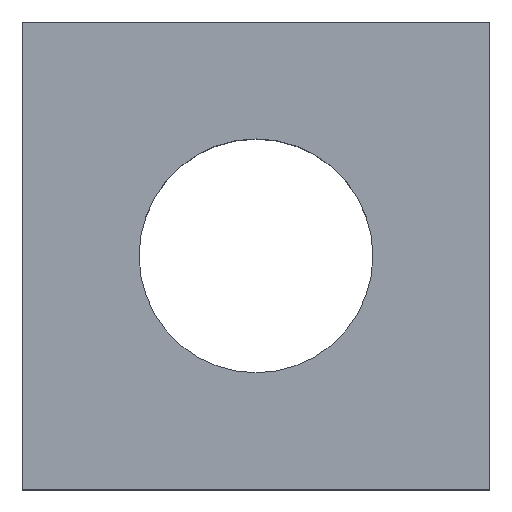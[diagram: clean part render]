
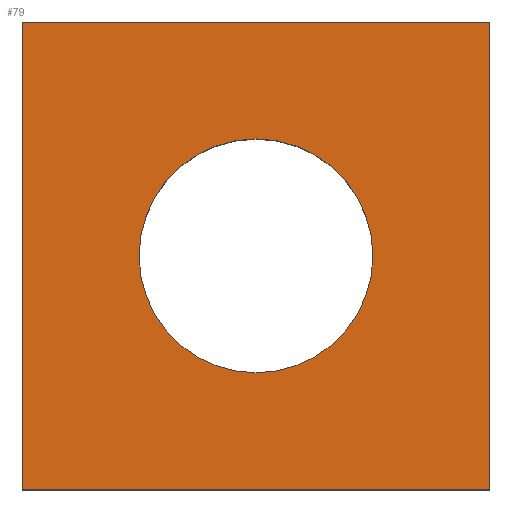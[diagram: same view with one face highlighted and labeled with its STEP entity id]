
A CAD part, top view. The second image highlights one B-rep face of the part: STEP entity #79.
In plain terms, the highlighted free-form (B-spline) face has degree [1, 1] with [2, 2] control points.
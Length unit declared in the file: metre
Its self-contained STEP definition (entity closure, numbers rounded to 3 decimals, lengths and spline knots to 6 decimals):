
#79 = ADVANCED_FACE( '', ( #93, #94 ), #95, .T. );
#93 = FACE_BOUND( '', #139, .T. );
#94 = FACE_OUTER_BOUND( '', #140, .T. );
#95 = B_SPLINE_SURFACE_WITH_KNOTS( '', 1, 1, ( ( #141, #142 ), ( #143, #144 ) ), .UNSPECIFIED., .F., .F., .F., ( 2, 2 ), ( 2, 2 ), ( 0., 1. ), ( 0., 1. ), .UNSPECIFIED. );
#139 = EDGE_LOOP( '', ( #170 ) );
#140 = EDGE_LOOP( '', ( #171, #172, #173, #174 ) );
#141 = CARTESIAN_POINT( '', ( 9.65659, 6.081052, 0.272235 ) );
#142 = CARTESIAN_POINT( '', ( 9.65659, 6.089852, 0.272235 ) );
#143 = CARTESIAN_POINT( '', ( 9.66539, 6.081052, 0.272235 ) );
#144 = CARTESIAN_POINT( '', ( 9.66539, 6.089852, 0.272235 ) );
#170 = ORIENTED_EDGE( '', *, *, #187, .F. );
#171 = ORIENTED_EDGE( '', *, *, #194, .T. );
#172 = ORIENTED_EDGE( '', *, *, #195, .T. );
#173 = ORIENTED_EDGE( '', *, *, #183, .T. );
#174 = ORIENTED_EDGE( '', *, *, #189, .T. );
#183 = EDGE_CURVE( '', #197, #198, #199, .T. );
#187 = EDGE_CURVE( '', #205, #205, #206, .T. );
#189 = EDGE_CURVE( '', #198, #209, #210, .T. );
#194 = EDGE_CURVE( '', #209, #217, #218, .T. );
#195 = EDGE_CURVE( '', #217, #197, #219, .T. );
#197 = VERTEX_POINT( '', #221 );
#198 = VERTEX_POINT( '', #222 );
#199 = LINE( '', #223, #224 );
#205 = VERTEX_POINT( '', #233 );
#206 = CIRCLE( '', #234, 0.002 );
#209 = VERTEX_POINT( '', #237 );
#210 = LINE( '', #238, #239 );
#217 = VERTEX_POINT( '', #250 );
#218 = LINE( '', #251, #252 );
#219 = LINE( '', #253, #254 );
#221 = CARTESIAN_POINT( '', ( 9.65699, 6.081452, 0.272235 ) );
#222 = CARTESIAN_POINT( '', ( 9.66499, 6.081452, 0.272235 ) );
#223 = CARTESIAN_POINT( '', ( 9.66099, 6.081452, 0.272235 ) );
#224 = VECTOR( '', #257, 1. );
#233 = CARTESIAN_POINT( '', ( 9.66299, 6.085452, 0.272235 ) );
#234 = AXIS2_PLACEMENT_3D( '', #261, #262, #263 );
#237 = CARTESIAN_POINT( '', ( 9.66499, 6.089452, 0.272235 ) );
#238 = CARTESIAN_POINT( '', ( 9.66499, 6.085452, 0.272235 ) );
#239 = VECTOR( '', #267, 1. );
#250 = CARTESIAN_POINT( '', ( 9.65699, 6.089452, 0.272235 ) );
#251 = CARTESIAN_POINT( '', ( 9.66099, 6.089452, 0.272235 ) );
#252 = VECTOR( '', #272, 1. );
#253 = CARTESIAN_POINT( '', ( 9.65699, 6.085452, 0.272235 ) );
#254 = VECTOR( '', #273, 1. );
#257 = DIRECTION( '', ( 1., 0., 0. ) );
#261 = CARTESIAN_POINT( '', ( 9.66099, 6.085452, 0.272235 ) );
#262 = DIRECTION( '', ( 0., 0., 1. ) );
#263 = DIRECTION( '', ( 0., -1., 0. ) );
#267 = DIRECTION( '', ( 0., 1., 0. ) );
#272 = DIRECTION( '', ( -1., 0., 0. ) );
#273 = DIRECTION( '', ( 0., -1., 0. ) );
